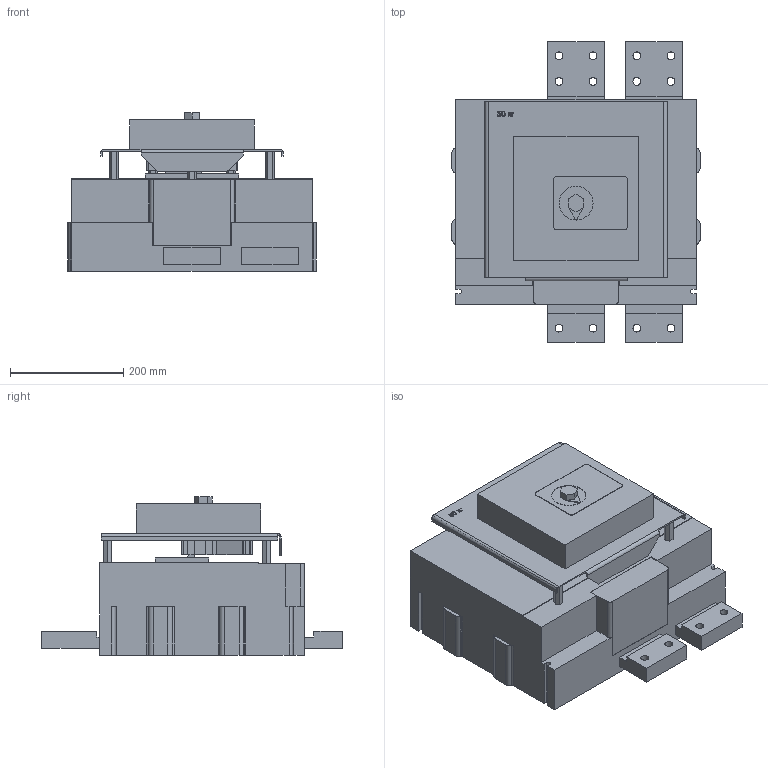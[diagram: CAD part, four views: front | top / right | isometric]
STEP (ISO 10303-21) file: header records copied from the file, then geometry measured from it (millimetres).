
FILE_DESCRIPTION (( 'STEP AP214' ), '1' );
FILE_NAME ('ÂÀ 53(55)-43 DC ñ ýëåêòðîìàãíèòíûì ïðèâîäîì 2000À.STEP', '2023-02-09T06:45:49', ( '' ), ( '' ), 'SwSTEP 2.0', 'SolidWorks 2018', '' );
FILE_SCHEMA (( 'AUTOMOTIVE_DESIGN' ));
Length unit declared in the file: millimetre
Products named in the file (1): ÂÀ 53(55)-43 DC ñ ýëåêòðîìàãíèòíûì ïðèâîäîì 2000À
Bounding box: 438 x 530 x 279.3 mm (x, y, z)
Volume: 28853900 mm3; surface area: 1029782.8 mm2
Topology: 1 solids, 1 shells, 262 faces, 785 edges, 542 vertices
Faces by surface type: plane 208, cylinder 52, bspline 2
Full cylindrical faces by diameter (mm): 14 x12, 60 x1
Entity records: 9128 total; most frequent: CARTESIAN_POINT 1971, ORIENTED_EDGE 1520, DIRECTION 1352, EDGE_CURVE 760, LINE 622, VECTOR 622, VERTEX_POINT 530, AXIS2_PLACEMENT_3D 365
